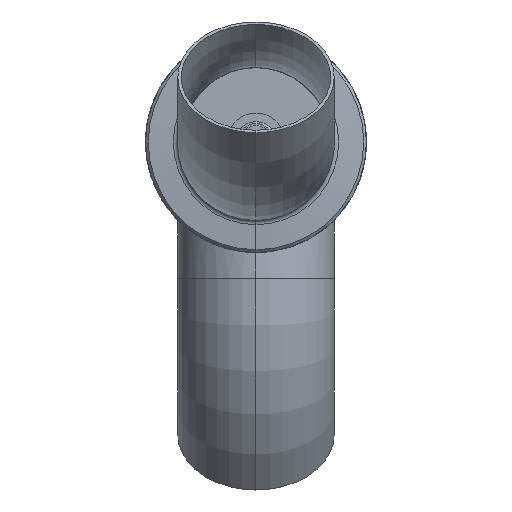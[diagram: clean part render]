
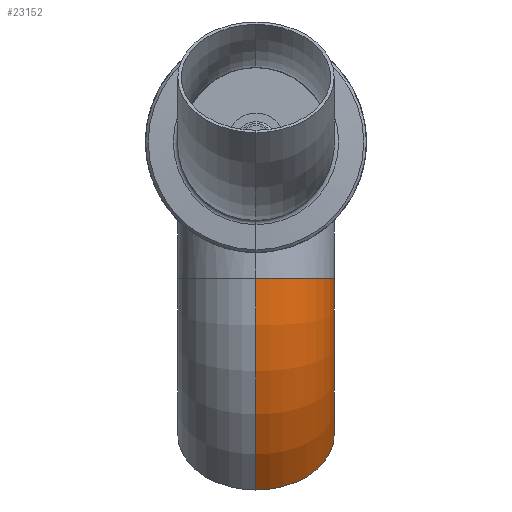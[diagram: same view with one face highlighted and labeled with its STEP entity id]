
A CAD part, front view. The second image highlights one B-rep face of the part: STEP entity #23152.
In plain terms, the highlighted toroidal (fillet/blend) face has major radius 457 mm and minor radius 161.95 mm.
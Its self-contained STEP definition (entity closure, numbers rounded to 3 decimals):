
#18075 = EDGE_CURVE ( 'NONE', #7442, #3698, #13657, .T. ) ;
#3173 = ORIENTED_EDGE ( 'NONE', *, *, #18075, .F. ) ;
#20017 = CIRCLE ( 'NONE', #20018, 161.95 ) ;
#20018 = AXIS2_PLACEMENT_3D ( 'NONE', #20019, #20022, #20023 ) ;
#20019 = CARTESIAN_POINT ( 'NONE',  ( 0., 0., 0. ) ) ;
#20022 = DIRECTION ( 'NONE',  ( 1., 0., 0. ) ) ;
#20023 = DIRECTION ( 'NONE',  ( 0., 0., -1. ) ) ;
#3698 = VERTEX_POINT ( 'NONE', #16258 ) ;
#3924 = EDGE_CURVE ( 'NONE', #5352, #3698, #20017, .T. ) ;
#4378 = ORIENTED_EDGE ( 'NONE', *, *, #3924, .T. ) ;
#21727 = CARTESIAN_POINT ( 'NONE',  ( 0., 161.95, 0. ) ) ;
#5352 = VERTEX_POINT ( 'NONE', #21727 ) ;
#21882 = CIRCLE ( 'NONE', #21883, 618.95 ) ;
#21883 = AXIS2_PLACEMENT_3D ( 'NONE', #21886, #21887, #21888 ) ;
#21886 = CARTESIAN_POINT ( 'NONE',  ( 0., -457., 0. ) ) ;
#21887 = DIRECTION ( 'NONE',  ( 0., 0., 1. ) ) ;
#21888 = DIRECTION ( 'NONE',  ( 1., 0., 0. ) ) ;
#5768 = EDGE_CURVE ( 'NONE', #7863, #5352, #21882, .T. ) ;
#22660 = CARTESIAN_POINT ( 'NONE',  ( 208.632, -248.368, 0. ) ) ;
#6466 = ORIENTED_EDGE ( 'NONE', *, *, #5768, .T. ) ;
#22880 = CARTESIAN_POINT ( 'NONE',  ( 437.664, -19.336, 0. ) ) ;
#23019 = EDGE_LOOP ( 'NONE', ( #8972, #6466, #4378, #3173 ) ) ;
#23152 = ADVANCED_FACE ( 'NONE', ( #7922 ), #7923, .T. ) ;
#23227 = CIRCLE ( 'NONE', #23228, 161.95 ) ;
#23228 = AXIS2_PLACEMENT_3D ( 'NONE', #23229, #23233, #23234 ) ;
#23229 = CARTESIAN_POINT ( 'NONE',  ( 323.148, -133.852, 0. ) ) ;
#23233 = DIRECTION ( 'NONE',  ( 0.707, -0.707, 0. ) ) ;
#23234 = DIRECTION ( 'NONE',  ( 0., 0., -1. ) ) ;
#7442 = VERTEX_POINT ( 'NONE', #22660 ) ;
#7863 = VERTEX_POINT ( 'NONE', #22880 ) ;
#7922 = FACE_OUTER_BOUND ( 'NONE', #23019, .T. ) ;
#7923 = TOROIDAL_SURFACE ( 'NONE', #7924, 457., 161.95 ) ;
#7924 = AXIS2_PLACEMENT_3D ( 'NONE', #7925, #7926, #7927 ) ;
#7925 = CARTESIAN_POINT ( 'NONE',  ( 0., -457., 0. ) ) ;
#7926 = DIRECTION ( 'NONE',  ( 0., 0., 1. ) ) ;
#7927 = DIRECTION ( 'NONE',  ( 1., 0., 0. ) ) ;
#8284 = EDGE_CURVE ( 'NONE', #7863, #7442, #23227, .T. ) ;
#8972 = ORIENTED_EDGE ( 'NONE', *, *, #8284, .F. ) ;
#13657 = CIRCLE ( 'NONE', #13658, 295.05 ) ;
#13658 = AXIS2_PLACEMENT_3D ( 'NONE', #13659, #13660, #13661 ) ;
#13659 = CARTESIAN_POINT ( 'NONE',  ( 0., -457., 0. ) ) ;
#13660 = DIRECTION ( 'NONE',  ( 0., 0., 1. ) ) ;
#13661 = DIRECTION ( 'NONE',  ( 1., 0., 0. ) ) ;
#16258 = CARTESIAN_POINT ( 'NONE',  ( 0., -161.95, 0. ) ) ;
